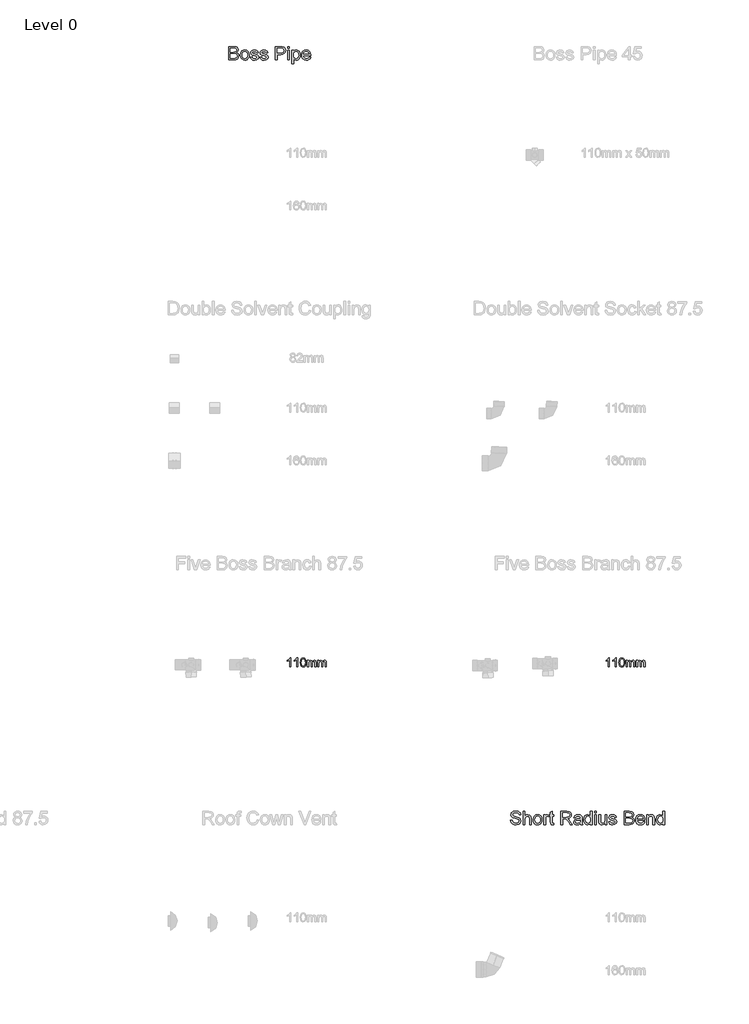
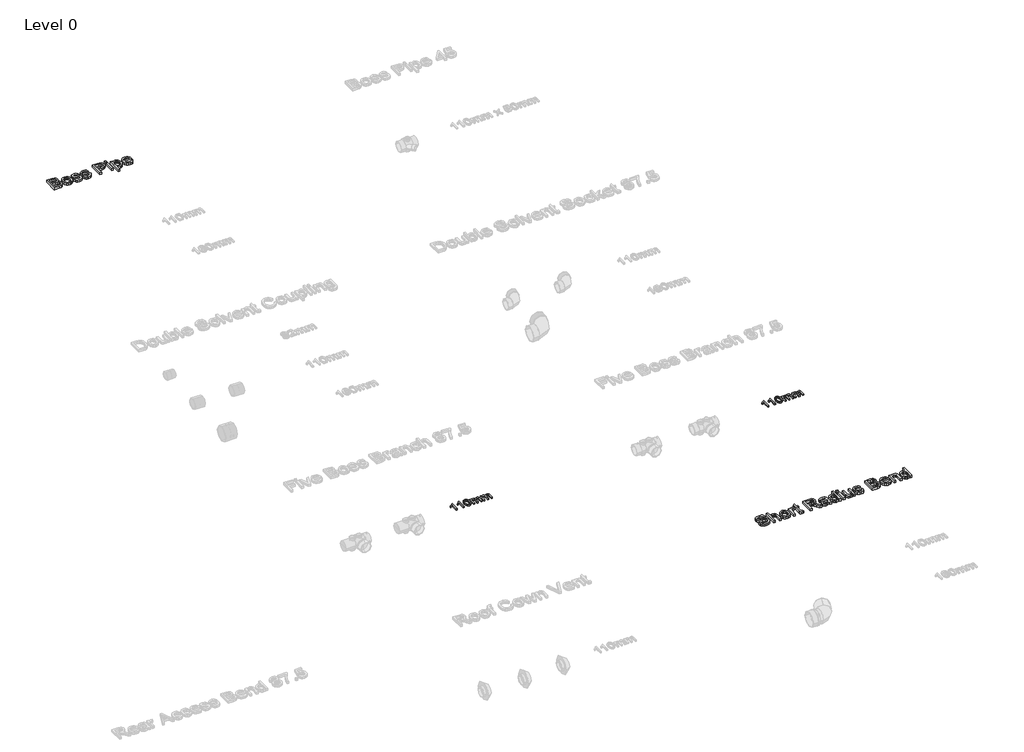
# One storey, part 26 of 28: 4 proxies.
"""IFC4 building model written with IfcOpenShell, lengths in millimetres."""

from ifc_helpers import new_model, si_unit, origin, origin_with_axes, place, context, project, spatial, polyline, outline, extrude, element, save

model = new_model("IFC4")

# Units and contexts
model_context = context("Model", 3, world=origin())
ifc_project = project(units=[si_unit("LENGTHUNIT", "METRE", prefix="MILLI")], contexts=[model_context])

# Site, building, storey
site = spatial("IfcSite", under=ifc_project)
building = spatial("IfcBuilding", under=site)
storey = spatial("IfcBuildingStorey", under=building, Name="Level 0", Elevation=0.0)

# Proxies
placement = place(None, origin())
element("IfcBuildingElementProxy", 1, Name="100mm Arial", ObjectType="100mm Arial", at=placement, inside=storey, context=model_context, shape_type="SweptSolid", body=[
    extrude(outline(polyline([(208.2706812, 2637.7167304), (195.9629889, 2637.7167304), (195.9629889, 2714.4474996), (184.3043351, 2706.1422111), (171.3476043, 2699.9282688), (171.3476043, 2711.5628842), (189.3884697, 2723.0773073), (200.3379889, 2736.1782688), (208.2706812, 2736.1782688), (208.2706812, 2637.7167304)])), origin_with_axes(), (0.0, 0.0, 1.0), 15.0),
    extrude(outline(polyline([(283.6552966, 2637.7167304), (271.3476043, 2637.7167304), (271.3476043, 2714.4474996), (259.6889505, 2706.1422111), (246.7322197, 2699.9282688), (246.7322197, 2711.5628842), (264.7730851, 2723.0773073), (275.7226043, 2736.1782688), (283.6552966, 2736.1782688), (283.6552966, 2637.7167304)])), origin_with_axes(), (0.0, 0.0, 1.0), 15.0),
    extrude(outline(polyline([(312.8860659, 2686.1542304), (316.5038543, 2714.4835573), (327.2490466, 2730.8176919), (345.1937582, 2736.1782688), (359.5687582, 2733.0051919), (369.4966428, 2723.8585573), (375.2658736, 2709.2912496), (377.5014505, 2686.1542304), (373.9197197, 2657.9450958), (363.2105851, 2641.5749035), (345.1937582, 2636.1782688), (332.4052966, 2638.5220188), (322.6937582, 2645.5532688), (315.3379889, 2662.2059131), (312.8860659, 2686.1542304)]), holes=[polyline([(325.1937582, 2686.1782688), (326.6360659, 2666.8182929), (330.9629889, 2655.613365), (337.4052966, 2650.2678121), (345.1937582, 2648.4859611), (352.9822197, 2650.2738217), (359.4245274, 2655.6374035), (363.7514505, 2666.848341), (365.1937582, 2686.1782688), (363.7995274, 2705.1025477), (359.6168351, 2716.394615), (353.1865466, 2722.0015861), (345.0495274, 2723.8705765), (337.3452005, 2722.2239419), (331.1552966, 2717.2840381), (326.6841428, 2705.2888458), (325.1937582, 2686.1782688)])]), origin_with_axes(), (0.0, 0.0, 1.0), 15.0),
    extrude(outline(polyline([(391.3476043, 2637.7167304), (391.3476043, 2710.0244227), (403.6552966, 2710.0244227), (403.6552966, 2698.1253842), (412.1168351, 2707.8729804), (424.1601043, 2711.5628842), (436.4918351, 2707.800865), (443.2706812, 2697.2599996), (452.8740466, 2707.9871631), (465.0014505, 2711.5628842), (474.2532534, 2710.0755044), (481.0952005, 2705.613365), (485.3229649, 2698.0562736), (486.7322197, 2687.2840381), (486.7322197, 2637.7167304), (474.4245274, 2637.7167304), (474.4245274, 2681.9955765), (473.2827005, 2692.2720188), (469.1480851, 2697.332115), (462.1168351, 2699.2551919), (450.0134697, 2694.3273073), (445.1937582, 2678.5340381), (445.1937582, 2637.7167304), (432.8860659, 2637.7167304), (432.8860659, 2683.3657688), (430.0375082, 2695.2888458), (420.6985659, 2699.2551919), (411.5879889, 2696.6109611), (405.5302966, 2688.8705765), (403.6552966, 2674.1830765), (403.6552966, 2637.7167304), (391.3476043, 2637.7167304)])), origin_with_axes(), (0.0, 0.0, 1.0), 15.0),
    extrude(outline(polyline([(505.1937582, 2637.7167304), (505.1937582, 2710.0244227), (517.5014505, 2710.0244227), (517.5014505, 2698.1253842), (525.9629889, 2707.8729804), (538.0062582, 2711.5628842), (550.3379889, 2707.800865), (557.1168351, 2697.2599996), (566.7202005, 2707.9871631), (578.8476043, 2711.5628842), (588.0994072, 2710.0755044), (594.9413543, 2705.613365), (599.1691187, 2698.0562736), (600.5783736, 2687.2840381), (600.5783736, 2637.7167304), (588.2706812, 2637.7167304), (588.2706812, 2681.9955765), (587.1288543, 2692.2720188), (582.9942389, 2697.332115), (575.9629889, 2699.2551919), (563.8596236, 2694.3273073), (559.039912, 2678.5340381), (559.039912, 2637.7167304), (546.7322197, 2637.7167304), (546.7322197, 2683.3657688), (543.883662, 2695.2888458), (534.5447197, 2699.2551919), (525.4341428, 2696.6109611), (519.3764505, 2688.8705765), (517.5014505, 2674.1830765), (517.5014505, 2637.7167304), (505.1937582, 2637.7167304)])), origin_with_axes(), (0.0, 0.0, 1.0), 15.0),
])
element("IfcBuildingElementProxy", 2, Name="100mm Arial", ObjectType="100mm Arial", at=placement, inside=storey, context=model_context, shape_type="SweptSolid", body=[
    extrude(outline(polyline([(3708.2706812, 2637.7167304), (3695.9629889, 2637.7167304), (3695.9629889, 2714.4474996), (3684.3043351, 2706.1422111), (3671.3476043, 2699.9282688), (3671.3476043, 2711.5628842), (3689.3884697, 2723.0773073), (3700.3379889, 2736.1782688), (3708.2706812, 2736.1782688), (3708.2706812, 2637.7167304)])), origin_with_axes(), (0.0, 0.0, 1.0), 15.0),
    extrude(outline(polyline([(3783.6552966, 2637.7167304), (3771.3476043, 2637.7167304), (3771.3476043, 2714.4474996), (3759.6889505, 2706.1422111), (3746.7322197, 2699.9282688), (3746.7322197, 2711.5628842), (3764.7730851, 2723.0773073), (3775.7226043, 2736.1782688), (3783.6552966, 2736.1782688), (3783.6552966, 2637.7167304)])), origin_with_axes(), (0.0, 0.0, 1.0), 15.0),
    extrude(outline(polyline([(3812.8860659, 2686.1542304), (3816.5038543, 2714.4835573), (3827.2490466, 2730.8176919), (3845.1937582, 2736.1782688), (3859.5687582, 2733.0051919), (3869.4966428, 2723.8585573), (3875.2658736, 2709.2912496), (3877.5014505, 2686.1542304), (3873.9197197, 2657.9450958), (3863.2105851, 2641.5749035), (3845.1937582, 2636.1782688), (3832.4052966, 2638.5220188), (3822.6937582, 2645.5532688), (3815.3379889, 2662.2059131), (3812.8860659, 2686.1542304)]), holes=[polyline([(3825.1937582, 2686.1782688), (3826.6360659, 2666.8182929), (3830.9629889, 2655.613365), (3837.4052966, 2650.2678121), (3845.1937582, 2648.4859611), (3852.9822197, 2650.2738217), (3859.4245274, 2655.6374035), (3863.7514505, 2666.848341), (3865.1937582, 2686.1782688), (3863.7995274, 2705.1025477), (3859.6168351, 2716.394615), (3853.1865466, 2722.0015861), (3845.0495274, 2723.8705765), (3837.3452005, 2722.2239419), (3831.1552966, 2717.2840381), (3826.6841428, 2705.2888458), (3825.1937582, 2686.1782688)])]), origin_with_axes(), (0.0, 0.0, 1.0), 15.0),
    extrude(outline(polyline([(3891.3476043, 2637.7167304), (3891.3476043, 2710.0244227), (3903.6552966, 2710.0244227), (3903.6552966, 2698.1253842), (3912.1168351, 2707.8729804), (3924.1601043, 2711.5628842), (3936.4918351, 2707.800865), (3943.2706812, 2697.2599996), (3952.8740466, 2707.9871631), (3965.0014505, 2711.5628842), (3974.2532534, 2710.0755044), (3981.0952005, 2705.613365), (3985.3229649, 2698.0562736), (3986.7322197, 2687.2840381), (3986.7322197, 2637.7167304), (3974.4245274, 2637.7167304), (3974.4245274, 2681.9955765), (3973.2827005, 2692.2720188), (3969.1480851, 2697.332115), (3962.1168351, 2699.2551919), (3950.0134697, 2694.3273073), (3945.1937582, 2678.5340381), (3945.1937582, 2637.7167304), (3932.8860659, 2637.7167304), (3932.8860659, 2683.3657688), (3930.0375082, 2695.2888458), (3920.6985659, 2699.2551919), (3911.5879889, 2696.6109611), (3905.5302966, 2688.8705765), (3903.6552966, 2674.1830765), (3903.6552966, 2637.7167304), (3891.3476043, 2637.7167304)])), origin_with_axes(), (0.0, 0.0, 1.0), 15.0),
    extrude(outline(polyline([(4005.1937582, 2637.7167304), (4005.1937582, 2710.0244227), (4017.5014505, 2710.0244227), (4017.5014505, 2698.1253842), (4025.9629889, 2707.8729804), (4038.0062582, 2711.5628842), (4050.3379889, 2707.800865), (4057.1168351, 2697.2599996), (4066.7202005, 2707.9871631), (4078.8476043, 2711.5628842), (4088.0994072, 2710.0755044), (4094.9413543, 2705.613365), (4099.1691187, 2698.0562736), (4100.5783736, 2687.2840381), (4100.5783736, 2637.7167304), (4088.2706812, 2637.7167304), (4088.2706812, 2681.9955765), (4087.1288543, 2692.2720188), (4082.9942389, 2697.332115), (4075.9629889, 2699.2551919), (4063.8596236, 2694.3273073), (4059.039912, 2678.5340381), (4059.039912, 2637.7167304), (4046.7322197, 2637.7167304), (4046.7322197, 2683.3657688), (4043.883662, 2695.2888458), (4034.5447197, 2699.2551919), (4025.4341428, 2696.6109611), (4019.3764505, 2688.8705765), (4017.5014505, 2674.1830765), (4017.5014505, 2637.7167304), (4005.1937582, 2637.7167304)])), origin_with_axes(), (0.0, 0.0, 1.0), 15.0),
])
element("IfcBuildingElementProxy", 3, Name="150mm Arial", ObjectType="150mm Arial", at=placement, inside=storey, context=model_context, shape_type="SweptSolid", body=[
    extrude(outline(polyline([(2621.7027796, 955.9837527), (2640.164318, 955.9837527), (2646.1138373, 937.5041854), (2660.6450873, 925.8214931), (2682.7845103, 921.3683681), (2702.0753757, 924.7397623), (2714.5333084, 934.0065892), (2718.6258565, 946.3924065), (2715.5609527, 957.9128392), (2703.0128757, 966.2962527), (2676.1318661, 973.3455315), (2647.195568, 982.4500988), (2631.492443, 996.1880796), (2626.3181642, 1014.541445), (2627.9182243, 1025.3542455), (2632.7184046, 1035.4368777), (2640.5925031, 1043.9825508), (2651.414318, 1050.1844738), (2678.7821065, 1055.2145219), (2707.9888373, 1049.9500988), (2719.1847507, 1043.4506998), (2727.4599911, 1034.4813488), (2732.6973709, 1023.6009402), (2734.7797027, 1011.3683681), (2716.3181642, 1011.3683681), (2712.9287411, 1022.3839931), (2705.8614334, 1030.3347142), (2694.8187652, 1035.1484161), (2679.5032603, 1036.7529835), (2663.8271786, 1035.166445), (2653.0729719, 1030.4068296), (2646.85302, 1023.4026229), (2644.7797027, 1015.0823104), (2646.2490536, 1007.9879594), (2650.6571065, 1002.2818296), (2680.8013373, 991.9693296), (2713.4696065, 982.7025027), (2723.9939454, 976.0047863), (2731.336193, 967.7385604), (2737.087395, 946.8611565), (2735.4332483, 935.4804474), (2730.4708084, 924.77582), (2722.4028998, 915.5630796), (2711.4323469, 908.6580315), (2683.5056642, 902.9068296), (2665.4182243, 904.4573104), (2650.5309046, 909.1087527), (2638.672431, 916.8791854), (2629.6715296, 927.7866373), (2623.8932844, 941.0738969), (2621.7027796, 955.9837527)])), origin_with_axes(), (0.0, 0.0, 1.0), 25.0),
    extrude(outline(polyline([(2762.4720103, 905.2145219), (2762.4720103, 1052.9068296), (2780.9335488, 1052.9068296), (2780.9335488, 998.603945), (2795.3295825, 1011.6388008), (2813.0609527, 1015.9837527), (2833.7941257, 1011.2421661), (2846.3782603, 998.135195), (2850.164318, 973.8683681), (2850.164318, 905.2145219), (2831.7027796, 905.2145219), (2831.7027796, 971.9573104), (2830.2334286, 983.5138008), (2825.8253757, 991.4284642), (2818.7220103, 995.9987767), (2809.1667219, 997.5222142), (2794.04052, 993.4116373), (2783.9443661, 982.2698104), (2780.9335488, 962.8347142), (2780.9335488, 905.2145219), (2762.4720103, 905.2145219)])), origin_with_axes(), (0.0, 0.0, 1.0), 25.0),
    extrude(outline(polyline([(2870.9335488, 959.4452911), (2874.9269382, 985.5961325), (2886.9071065, 1003.9765411), (2901.7087892, 1012.9819498), (2919.431145, 1015.9837527), (2938.8256762, 1012.3284041), (2954.3169623, 1001.3623585), (2964.4717099, 983.9510003), (2967.8566257, 960.9597142), (2966.3602315, 942.3088729), (2961.8710488, 928.1111565), (2954.5197868, 917.4786445), (2944.4371546, 909.5234161), (2932.4614935, 904.5609762), (2919.431145, 902.9068296), (2899.8022387, 906.5486565), (2884.3289815, 917.4741373), (2874.282407, 935.2505796), (2870.9335488, 959.4452911)]), holes=[polyline([(2889.3950873, 959.4813488), (2891.5315055, 942.7731157), (2897.9407603, 930.86957), (2907.586193, 923.7436686), (2919.431145, 921.3683681), (2931.2220103, 923.7571902), (2940.8494142, 930.9236565), (2947.258669, 942.9849546), (2949.3950873, 960.0582719), (2947.2451474, 976.2797262), (2940.7953277, 988.0210123), (2931.1544022, 995.1469137), (2919.431145, 997.5222142), (2907.586193, 995.1559282), (2897.9407603, 988.05707), (2891.5315055, 976.1805676), (2889.3950873, 959.4813488)])]), origin_with_axes(), (0.0, 0.0, 1.0), 25.0),
    extrude(outline(polyline([(2988.6258565, 905.2145219), (2988.6258565, 1013.6760604), (3004.7797027, 1013.6760604), (3004.7797027, 997.6303873), (3016.2460488, 1012.4140411), (3027.7845103, 1015.9837527), (3046.3181642, 1010.2866373), (3040.1522988, 993.7361565), (3027.1715296, 997.5222142), (3016.7328277, 993.8803873), (3010.0801834, 983.7842335), (3007.087395, 962.2217335), (3007.087395, 905.2145219), (2988.6258565, 905.2145219)])), origin_with_axes(), (0.0, 0.0, 1.0), 25.0),
    extrude(outline(polyline([(3097.087395, 920.6111565), (3099.3950873, 904.6736565), (3085.5849911, 902.9068296), (3070.1162411, 905.9717335), (3062.399895, 914.0125988), (3060.164318, 934.9621181), (3060.164318, 995.2145219), (3046.3181642, 995.2145219), (3046.3181642, 1013.6760604), (3060.164318, 1013.6760604), (3060.164318, 1040.0342335), (3078.6258565, 1050.8875988), (3078.6258565, 1013.6760604), (3097.087395, 1013.6760604), (3097.087395, 995.2145219), (3078.6258565, 995.2145219), (3078.6258565, 935.5029835), (3079.5994142, 925.9837527), (3082.7544623, 922.6123585), (3089.0465296, 921.3683681), (3097.087395, 920.6111565)])), origin_with_axes(), (0.0, 0.0, 1.0), 25.0),
    extrude(outline(polyline([(3175.5489334, 905.2145219), (3175.5489334, 1052.9068296), (3239.1907603, 1052.9068296), (3268.7400392, 1048.9224546), (3277.8355921, 1043.4056277), (3284.8938853, 1034.8238969), (3289.4236329, 1024.1823705), (3290.9335488, 1012.4861565), (3288.4320464, 997.9368777), (3280.9275392, 985.8755796), (3268.1946666, 977.0324306), (3250.008068, 972.1375988), (3260.5008565, 964.2409642), (3275.4647988, 945.2385604), (3300.0922027, 905.2145219), (3278.6378757, 905.2145219), (3259.4191257, 935.8275027), (3245.5369142, 956.0919258), (3235.7833084, 965.6652431), (3227.0032603, 969.1808681), (3216.2941257, 969.8299065), (3194.0104719, 969.8299065), (3194.0104719, 905.2145219), (3175.5489334, 905.2145219)]), holes=[polyline([(3194.0104719, 988.291445), (3235.3325873, 988.291445), (3256.4083084, 990.9056277), (3268.3794623, 999.2710123), (3272.4720103, 1011.8010604), (3270.5203878, 1020.806469), (3264.66552, 1028.0630796), (3254.5919022, 1032.8497383), (3239.9840296, 1034.4452911), (3194.0104719, 1034.4452911), (3194.0104719, 988.291445)])]), origin_with_axes(), (0.0, 0.0, 1.0), 25.0),
    extrude(outline(polyline([(3390.164318, 919.0606758), (3372.2616738, 906.5486565), (3352.4840296, 902.9068296), (3337.0558445, 905.0973344), (3325.6751353, 911.6688488), (3318.657407, 921.6478152), (3316.3181642, 934.0606758), (3319.851818, 948.6640411), (3329.1366738, 959.2650027), (3342.0633565, 965.322695), (3358.0369142, 968.0991373), (3390.056145, 974.4452911), (3390.164318, 978.5558681), (3388.8932844, 986.7950508), (3385.0801834, 992.1856758), (3376.5525392, 996.1880796), (3364.6715296, 997.5222142), (3345.993645, 993.9705315), (3337.087395, 981.3683681), (3318.6258565, 983.6760604), (3326.6126353, 1001.7049065), (3342.6943661, 1012.2698104), (3367.0513373, 1015.9837527), (3389.4251353, 1012.7025027), (3402.0633565, 1004.46332), (3407.7244142, 991.9332719), (3408.6258565, 975.7794258), (3408.6258565, 952.8106758), (3409.5633565, 920.7373585), (3413.2412411, 905.2145219), (3394.7797027, 905.2145219), (3390.164318, 919.0606758)]), holes=[polyline([(3390.164318, 955.9837527), (3360.3806642, 950.322695), (3344.4972507, 947.3299065), (3337.3037411, 942.4621181), (3334.7797027, 935.3587527), (3340.2785007, 925.3707719), (3356.414318, 921.3683681), (3375.0922027, 925.7854354), (3387.1354719, 936.4765411), (3390.056145, 950.7553873), (3390.164318, 955.9837527)])]), origin_with_axes(), (0.0, 0.0, 1.0), 25.0),
    extrude(outline(polyline([(3500.9335488, 905.2145219), (3500.9335488, 922.6303873), (3488.7190055, 907.837719), (3471.8349911, 902.9068296), (3459.899895, 904.6916854), (3448.9744142, 910.0462527), (3439.7256161, 918.596433), (3432.820568, 929.9681277), (3428.5206882, 943.7016012), (3427.087395, 959.3371181), (3432.3698469, 988.7241373), (3438.9684046, 1000.3797863), (3448.1991738, 1008.9525027), (3459.3635368, 1014.2259402), (3471.7628757, 1015.9837527), (3488.7821065, 1010.9537046), (3500.9335488, 997.8827911), (3500.9335488, 1052.9068296), (3519.3950873, 1052.9068296), (3519.3950873, 905.2145219), (3500.9335488, 905.2145219)]), holes=[polyline([(3445.5489334, 959.4092335), (3447.6312652, 942.7100147), (3453.8782603, 930.8335123), (3462.9557844, 923.7346541), (3473.5297027, 921.3683681), (3484.0991137, 923.6264811), (3492.94677, 930.40082), (3498.9368541, 941.8175868), (3500.9335488, 958.0029835), (3498.9007964, 975.698296), (3492.8025392, 987.9669258), (3483.7295224, 995.1333921), (3472.7724911, 997.5222142), (3462.0903998, 995.2280436), (3453.337395, 988.3455315), (3447.4960488, 976.5231157), (3445.5489334, 959.4092335)])]), origin_with_axes(), (0.0, 0.0, 1.0), 25.0),
    extrude(outline(polyline([(3547.087395, 1034.4452911), (3547.087395, 1052.9068296), (3565.5489334, 1052.9068296), (3565.5489334, 1034.4452911), (3547.087395, 1034.4452911)])), origin_with_axes(), (0.0, 0.0, 1.0), 25.0),
    extrude(outline(polyline([(3547.087395, 905.2145219), (3547.087395, 1013.6760604), (3565.5489334, 1013.6760604), (3565.5489334, 905.2145219), (3547.087395, 905.2145219)])), origin_with_axes(), (0.0, 0.0, 1.0), 25.0),
    extrude(outline(polyline([(3662.4720103, 905.2145219), (3662.4720103, 923.8563488), (3648.0128757, 908.1442094), (3629.1547027, 902.9068296), (3611.7929238, 906.5847142), (3599.82177, 915.8154835), (3594.3229719, 929.4092335), (3593.2412411, 946.572695), (3593.2412411, 1013.6760604), (3611.7027796, 1013.6760604), (3611.7027796, 955.2625988), (3612.820568, 936.4404835), (3620.1222507, 925.3888008), (3633.8782603, 921.3683681), (3649.2929238, 925.478945), (3659.4792219, 936.6748585), (3662.4720103, 957.2457719), (3662.4720103, 1013.6760604), (3680.9335488, 1013.6760604), (3680.9335488, 905.2145219), (3662.4720103, 905.2145219)])), origin_with_axes(), (0.0, 0.0, 1.0), 25.0),
    extrude(outline(polyline([(3699.3950873, 937.5222142), (3717.8566257, 939.8299065), (3720.7682844, 931.9332719), (3726.4022988, 926.1279835), (3745.9816257, 921.3683681), (3764.8037411, 925.7313488), (3770.9335488, 935.9717335), (3764.7676834, 944.2650027), (3745.7652796, 949.5294258), (3717.9647988, 958.5618777), (3705.8313853, 969.1087527), (3701.7027796, 984.0005796), (3705.0200873, 997.7565892), (3714.070568, 1008.2674065), (3725.8073469, 1013.7301469), (3741.6907603, 1015.9837527), (3764.1547027, 1012.3599546), (3778.4335488, 1002.5522623), (3784.7797027, 985.9837527), (3766.3181642, 983.6760604), (3759.3770584, 993.8623585), (3743.133068, 997.5222142), (3725.4647988, 994.0246181), (3720.164318, 985.8755796), (3722.3638373, 980.5029835), (3729.2508565, 976.4284642), (3745.1522988, 972.4981758), (3772.2496546, 963.8082719), (3784.8337892, 953.9645219), (3789.3950873, 937.9188488), (3784.04052, 920.2505796), (3768.5897988, 907.43207), (3745.7292219, 902.9068296), (3727.1144382, 905.08832), (3713.5297027, 911.6327911), (3704.461193, 922.4681277), (3699.3950873, 937.5222142)])), origin_with_axes(), (0.0, 0.0, 1.0), 25.0),
    extrude(outline(polyline([(3870.164318, 905.2145219), (3870.164318, 1052.9068296), (3926.5224911, 1052.9068296), (3954.1246546, 1048.5618777), (3963.4004959, 1043.049558), (3970.4227315, 1035.2025027), (3976.3181642, 1016.3082719), (3971.3602315, 999.0546661), (3956.3782603, 985.9837527), (3966.8394983, 980.5210123), (3974.5693661, 972.2097142), (3979.3425031, 961.5997383), (3980.9335488, 949.2409642), (3976.5885969, 929.3912046), (3965.8253757, 915.2565892), (3949.7616738, 907.7565892), (3926.0897988, 905.2145219), (3870.164318, 905.2145219)]), holes=[polyline([(3888.6258565, 923.6760604), (3926.4864334, 923.6760604), (3940.1883565, 924.3972142), (3951.7809046, 928.4176469), (3959.461193, 936.6207719), (3962.4720103, 949.0606758), (3958.9383565, 963.4116373), (3947.4900392, 971.9753392), (3924.6835488, 974.4452911), (3888.6258565, 974.4452911), (3888.6258565, 923.6760604)]), polyline([(3888.6258565, 992.9068296), (3922.3397988, 992.9068296), (3942.0272988, 994.4933681), (3953.8722507, 1001.3263008), (3957.8566257, 1013.3515411), (3954.1426834, 1025.3948104), (3943.5056642, 1032.5162046), (3919.7797027, 1034.4452911), (3888.6258565, 1034.4452911), (3888.6258565, 992.9068296)])]), origin_with_axes(), (0.0, 0.0, 1.0), 25.0),
    extrude(outline(polyline([(4079.9479719, 937.5222142), (4098.0489334, 935.2145219), (4091.5269983, 921.5756998), (4081.1198469, 911.3803873), (4067.0618541, 905.025219), (4049.587395, 902.9068296), (4027.9257363, 906.5621782), (4011.258068, 917.5282238), (4000.6300632, 935.0928272), (3997.087395, 958.5438488), (4000.6661209, 982.7836325), (4011.4022988, 1000.9116373), (4027.8446065, 1012.2157238), (4048.5417219, 1015.9837527), (4068.594306, 1012.2247383), (4084.617443, 1000.947695), (4095.1237531, 982.8557479), (4098.6258565, 958.6520219), (4098.5176834, 953.6760604), (4015.5489334, 953.6760604), (4018.7445464, 939.8569498), (4026.1679238, 929.697695), (4036.8815656, 923.4506998), (4049.9479719, 921.3683681), (4068.0489334, 925.2265411), (4079.9479719, 937.5222142)]), holes=[polyline([(4015.5489334, 972.1375988), (4080.164318, 972.1375988), (4077.6673228, 981.8912046), (4072.7724911, 988.8683681), (4062.00927, 995.3587527), (4048.4696065, 997.5222142), (4036.0251954, 995.7959522), (4025.7352315, 990.6171661), (4018.5822868, 982.5447503), (4015.5489334, 972.1375988)])]), origin_with_axes(), (0.0, 0.0, 1.0), 25.0),
    extrude(outline(polyline([(4117.087395, 905.2145219), (4117.087395, 1013.6760604), (4135.5489334, 1013.6760604), (4135.5489334, 998.5318296), (4149.66552, 1011.6207719), (4168.9383565, 1015.9837527), (4186.3722507, 1012.4681277), (4198.2712892, 1003.2373585), (4203.806145, 989.6616373), (4204.7797027, 971.8130796), (4204.7797027, 905.2145219), (4186.3181642, 905.2145219), (4186.3181642, 969.3250988), (4184.1907603, 985.6592335), (4176.6727315, 994.2950508), (4163.9984527, 997.5222142), (4153.1856522, 995.7103152), (4143.9684046, 990.2746181), (4137.6538012, 979.7728152), (4135.5489334, 962.7625988), (4135.5489334, 905.2145219), (4117.087395, 905.2145219)])), origin_with_axes(), (0.0, 0.0, 1.0), 25.0),
    extrude(outline(polyline([(4297.087395, 905.2145219), (4297.087395, 922.6303873), (4284.8728517, 907.837719), (4267.9888373, 902.9068296), (4256.0537411, 904.6916854), (4245.1282603, 910.0462527), (4235.8794623, 918.596433), (4228.9744142, 929.9681277), (4224.6745344, 943.7016012), (4223.2412411, 959.3371181), (4228.523693, 988.7241373), (4235.1222507, 1000.3797863), (4244.35302, 1008.9525027), (4255.5173829, 1014.2259402), (4267.9167219, 1015.9837527), (4284.9359527, 1010.9537046), (4297.087395, 997.8827911), (4297.087395, 1052.9068296), (4315.5489334, 1052.9068296), (4315.5489334, 905.2145219), (4297.087395, 905.2145219)]), holes=[polyline([(4241.7027796, 959.4092335), (4243.7851113, 942.7100147), (4250.0321065, 930.8335123), (4259.1096305, 923.7346541), (4269.6835488, 921.3683681), (4280.2529599, 923.6264811), (4289.1006161, 930.40082), (4295.0907003, 941.8175868), (4297.087395, 958.0029835), (4295.0546426, 975.698296), (4288.9563853, 987.9669258), (4279.8833685, 995.1333921), (4268.9263373, 997.5222142), (4258.2442459, 995.2280436), (4249.4912411, 988.3455315), (4243.649895, 976.5231157), (4241.7027796, 959.4092335)])]), origin_with_axes(), (0.0, 0.0, 1.0), 25.0),
])
element("IfcBuildingElementProxy", 4, Name="150mm Arial", ObjectType="150mm Arial", at=placement, inside=storey, context=model_context, shape_type="SweptSolid", body=[
    extrude(outline(polyline([(-474.4510666, 9305.2145219), (-474.4510666, 9452.9068296), (-418.0928935, 9452.9068296), (-390.49073, 9448.5618777), (-381.2148887, 9443.049558), (-374.1926531, 9435.2025027), (-368.2972204, 9416.3082719), (-373.2551531, 9399.0546661), (-388.2371243, 9385.9837527), (-377.7758863, 9380.5210123), (-370.0460185, 9372.2097142), (-365.2728815, 9361.5997383), (-363.6818358, 9349.2409642), (-368.0267877, 9329.3912046), (-378.7900089, 9315.2565892), (-394.8537108, 9307.7565892), (-418.5255858, 9305.2145219), (-474.4510666, 9305.2145219)]), holes=[polyline([(-455.9895281, 9323.6760604), (-418.1289512, 9323.6760604), (-404.4270281, 9324.3972142), (-392.83448, 9328.4176469), (-385.1541916, 9336.6207719), (-382.1433743, 9349.0606758), (-385.6770281, 9363.4116373), (-397.1253454, 9371.9753392), (-419.9318358, 9374.4452911), (-455.9895281, 9374.4452911), (-455.9895281, 9323.6760604)]), polyline([(-455.9895281, 9392.9068296), (-422.2755858, 9392.9068296), (-402.5880858, 9394.4933681), (-390.7431339, 9401.3263008), (-386.7587589, 9413.3515411), (-390.4727012, 9425.3948104), (-401.1097204, 9432.5162046), (-424.835682, 9434.4452911), (-455.9895281, 9434.4452911), (-455.9895281, 9392.9068296)])]), origin_with_axes(), (0.0, 0.0, 1.0), 25.0),
    extrude(outline(polyline([(-345.2202973, 9359.4452911), (-341.2269079, 9385.5961325), (-329.2467397, 9403.9765411), (-314.445057, 9412.9819498), (-296.7227012, 9415.9837527), (-277.3281699, 9412.3284041), (-261.8368839, 9401.3623585), (-251.6821363, 9383.9510003), (-248.2972204, 9360.9597142), (-249.7936147, 9342.3088729), (-254.2827973, 9328.1111565), (-261.6340594, 9317.4786445), (-271.7166916, 9309.5234161), (-283.6923526, 9304.5609762), (-296.7227012, 9302.9068296), (-316.3516074, 9306.5486565), (-331.8248647, 9317.4741373), (-341.8714392, 9335.2505796), (-345.2202973, 9359.4452911)]), holes=[polyline([(-326.7587589, 9359.4813488), (-324.6223406, 9342.7731157), (-318.2130858, 9330.86957), (-308.5676531, 9323.7436686), (-296.7227012, 9321.3683681), (-284.9318358, 9323.7571902), (-275.304432, 9330.9236565), (-268.8951772, 9342.9849546), (-266.7587589, 9360.0582719), (-268.9086988, 9376.2797262), (-275.3585185, 9388.0210123), (-284.999444, 9395.1469137), (-296.7227012, 9397.5222142), (-308.5676531, 9395.1559282), (-318.2130858, 9388.05707), (-324.6223406, 9376.1805676), (-326.7587589, 9359.4813488)])]), origin_with_axes(), (0.0, 0.0, 1.0), 25.0),
    extrude(outline(polyline([(-234.4510666, 9337.5222142), (-215.9895281, 9339.8299065), (-213.0778695, 9331.9332719), (-207.443855, 9326.1279835), (-187.8645281, 9321.3683681), (-169.0424127, 9325.7313488), (-162.912605, 9335.9717335), (-169.0784704, 9344.2650027), (-188.0808743, 9349.5294258), (-215.881355, 9358.5618777), (-228.0147685, 9369.1087527), (-232.1433743, 9384.0005796), (-228.8260666, 9397.7565892), (-219.7755858, 9408.2674065), (-208.038807, 9413.7301469), (-192.1553935, 9415.9837527), (-169.6914512, 9412.3599546), (-155.412605, 9402.5522623), (-149.0664512, 9385.9837527), (-167.5279897, 9383.6760604), (-174.4690954, 9393.8623585), (-190.7130858, 9397.5222142), (-208.381355, 9394.0246181), (-213.6818358, 9385.8755796), (-211.4823166, 9380.5029835), (-204.5952973, 9376.4284642), (-188.693855, 9372.4981758), (-161.5964993, 9363.8082719), (-149.0123647, 9353.9645219), (-144.4510666, 9337.9188488), (-149.8056339, 9320.2505796), (-165.256355, 9307.43207), (-188.116932, 9302.9068296), (-206.7317156, 9305.08832), (-220.3164512, 9311.6327911), (-229.3849608, 9322.4681277), (-234.4510666, 9337.5222142)])), origin_with_axes(), (0.0, 0.0, 1.0), 25.0),
    extrude(outline(polyline([(-130.6049127, 9337.5222142), (-112.1433743, 9339.8299065), (-109.2317156, 9331.9332719), (-103.5977012, 9326.1279835), (-84.0183743, 9321.3683681), (-65.1962589, 9325.7313488), (-59.0664512, 9335.9717335), (-65.2323166, 9344.2650027), (-84.2347204, 9349.5294258), (-112.0352012, 9358.5618777), (-124.1686147, 9369.1087527), (-128.2972204, 9384.0005796), (-124.9799127, 9397.7565892), (-115.929432, 9408.2674065), (-104.1926531, 9413.7301469), (-88.3092397, 9415.9837527), (-65.8452973, 9412.3599546), (-51.5664512, 9402.5522623), (-45.2202973, 9385.9837527), (-63.6818358, 9383.6760604), (-70.6229416, 9393.8623585), (-86.866932, 9397.5222142), (-104.5352012, 9394.0246181), (-109.835682, 9385.8755796), (-107.6361627, 9380.5029835), (-100.7491435, 9376.4284642), (-84.8477012, 9372.4981758), (-57.7503454, 9363.8082719), (-45.1662108, 9353.9645219), (-40.6049127, 9337.9188488), (-45.95948, 9320.2505796), (-61.4102012, 9307.43207), (-84.2707781, 9302.9068296), (-102.8855618, 9305.08832), (-116.4702973, 9311.6327911), (-125.538807, 9322.4681277), (-130.6049127, 9337.5222142)])), origin_with_axes(), (0.0, 0.0, 1.0), 25.0),
    extrude(outline(polyline([(40.164318, 9305.2145219), (40.164318, 9452.9068296), (94.899895, 9452.9068296), (116.9672027, 9451.5005796), (134.9059046, 9444.5955315), (146.5345103, 9430.3166854), (150.9335488, 9410.1784642), (147.9632964, 9392.7716133), (139.0525392, 9378.2674065), (122.3893781, 9368.4777431), (96.1619142, 9365.2145219), (58.6258565, 9365.2145219), (58.6258565, 9305.2145219), (40.164318, 9305.2145219)]), holes=[polyline([(58.6258565, 9383.6760604), (97.243645, 9383.6760604), (113.6138373, 9385.3707719), (124.431145, 9390.4549065), (130.461794, 9398.6129594), (132.4720103, 9409.5294258), (127.7304238, 9424.8178873), (115.2724911, 9433.1832719), (96.8109527, 9434.4452911), (58.6258565, 9434.4452911), (58.6258565, 9383.6760604)])]), origin_with_axes(), (0.0, 0.0, 1.0), 25.0),
    extrude(outline(polyline([(174.0104719, 9434.4452911), (174.0104719, 9452.9068296), (192.4720103, 9452.9068296), (192.4720103, 9434.4452911), (174.0104719, 9434.4452911)])), origin_with_axes(), (0.0, 0.0, 1.0), 25.0),
    extrude(outline(polyline([(174.0104719, 9305.2145219), (174.0104719, 9413.6760604), (192.4720103, 9413.6760604), (192.4720103, 9305.2145219), (174.0104719, 9305.2145219)])), origin_with_axes(), (0.0, 0.0, 1.0), 25.0),
    extrude(outline(polyline([(220.164318, 9263.6760604), (220.164318, 9413.6760604), (238.6258565, 9413.6760604), (238.6258565, 9395.5750988), (251.3902796, 9410.8815892), (268.6258565, 9415.9837527), (281.1108325, 9414.1988969), (292.0272988, 9408.8443296), (300.91552, 9400.24457), (307.3157603, 9388.7241373), (312.4720103, 9360.2746181), (311.016181, 9344.4858561), (306.648693, 9330.3647623), (299.50927, 9318.6279835), (289.7376353, 9309.9921661), (278.3569262, 9304.6781637), (266.3902796, 9302.9068296), (250.3265777, 9307.6484161), (238.6258565, 9319.6375988), (238.6258565, 9263.6760604), (220.164318, 9263.6760604)]), holes=[polyline([(238.6258565, 9358.5799065), (240.6225512, 9342.0294258), (246.6126353, 9330.4549065), (255.4512772, 9323.6400027), (265.993645, 9321.3683681), (276.7072868, 9323.7211325), (285.7712892, 9330.7794258), (291.9506762, 9342.7776229), (294.0104719, 9359.9500988), (292.0002555, 9376.4104354), (285.9696065, 9388.1472142), (277.1444863, 9395.1784642), (266.7508565, 9397.5222142), (256.3166618, 9395.0297262), (247.1535007, 9387.5522623), (240.7577676, 9375.3241974), (238.6258565, 9358.5799065)])]), origin_with_axes(), (0.0, 0.0, 1.0), 25.0),
    extrude(outline(polyline([(409.1787411, 9337.5222142), (427.2797027, 9335.2145219), (420.7577676, 9321.5756998), (410.3506161, 9311.3803873), (396.2926233, 9305.025219), (378.8181642, 9302.9068296), (357.1565055, 9306.5621782), (340.4888373, 9317.5282238), (329.8608325, 9335.0928272), (326.3181642, 9358.5438488), (329.8968902, 9382.7836325), (340.633068, 9400.9116373), (357.0753757, 9412.2157238), (377.7724911, 9415.9837527), (397.8250753, 9412.2247383), (413.8482123, 9400.947695), (424.3545224, 9382.8557479), (427.8566257, 9358.6520219), (427.7484527, 9353.6760604), (344.7797027, 9353.6760604), (347.9753156, 9339.8569498), (355.398693, 9329.697695), (366.1123349, 9323.4506998), (379.1787411, 9321.3683681), (397.2797027, 9325.2265411), (409.1787411, 9337.5222142)]), holes=[polyline([(344.7797027, 9372.1375988), (409.3950873, 9372.1375988), (406.8980921, 9381.8912046), (402.0032603, 9388.8683681), (391.2400392, 9395.3587527), (377.7003757, 9397.5222142), (365.2559647, 9395.7959522), (354.9660007, 9390.6171661), (347.813056, 9382.5447503), (344.7797027, 9372.1375988)])]), origin_with_axes(), (0.0, 0.0, 1.0), 25.0),
])

save(model, "model.ifc")
